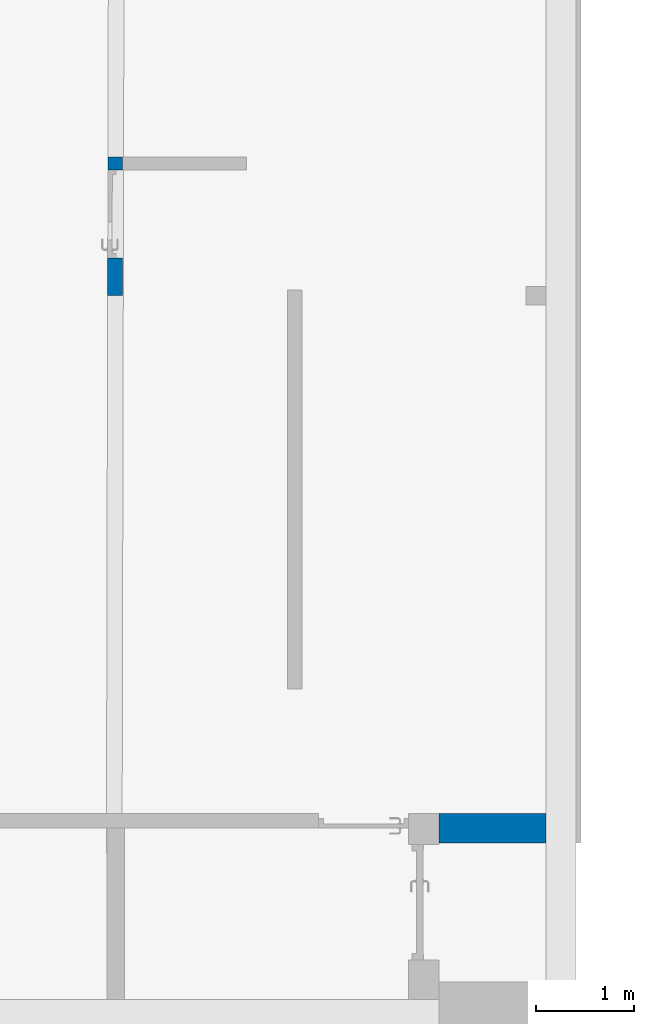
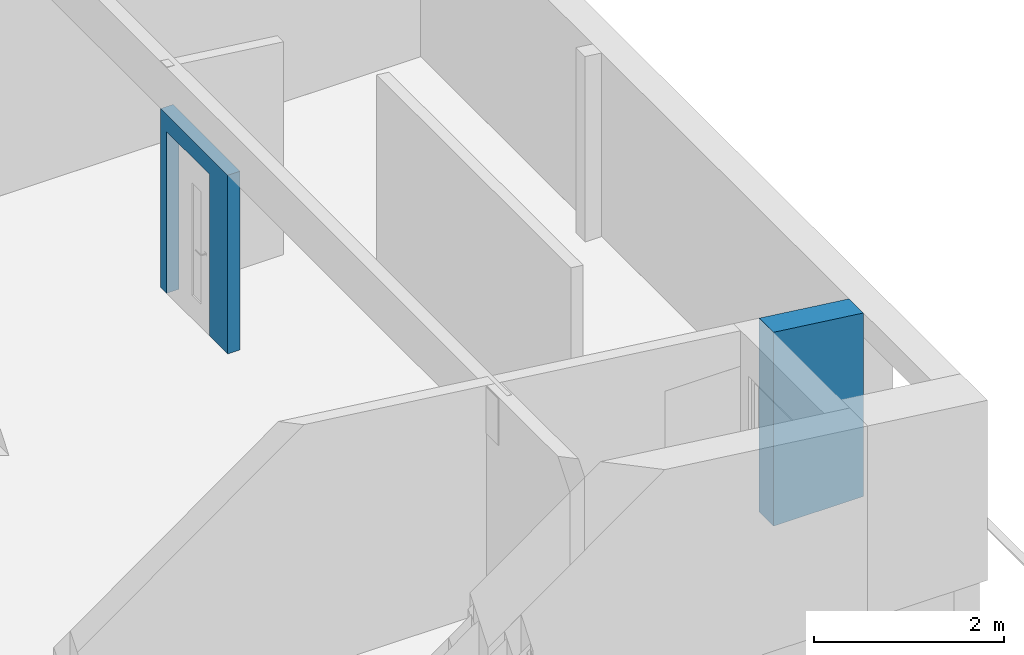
# One storey, part 162 of 301: 2 walls, 1 opening.
"""IFC2X3 building model written with IfcOpenShell, lengths in millimetres."""

import ifcopenshell
import ifcopenshell.guid

model = None  # the IFC model being written
_history = None  # IfcOwnerHistory: only IFC2X3 demands one
_inside = {}  # id of a spatial element -> (the spatial element, [elements in it])
_under = {}  # id of a project, library or spatial element -> (it, [spatial elements below it])
_declared = {}  # id of a project -> (the project, [libraries it declares])
_typed = {}  # id of a type object -> (the type object, [elements of that type])
_made_of = {}  # id of a material, layer set ... -> (it, [elements and type objects made of it])


def new_model(schema):
    """Start an empty IFC model of exactly this schema.

    Asked for "IFC4X3", IfcOpenShell would pick the latest addendum, in which some entities
    have other attributes; the version numbers below select the first issue.
    IFC2X3 requires an IfcOwnerHistory on every rooted entity: one is made here for all.
    """
    global model, _history
    if schema == "IFC4X3":
        model = ifcopenshell.file(schema_version=(4, 3, 0, 0))
    else:
        model = ifcopenshell.file(schema=schema)
    _inside.clear()
    _under.clear()
    _declared.clear()
    _typed.clear()
    _made_of.clear()
    _history = None
    if model.schema == "IFC2X3":
        org = make("IfcOrganization", Name="unknown")
        user = make(
            "IfcPersonAndOrganization",
            ThePerson=make("IfcPerson", FamilyName="unknown"),
            TheOrganization=org,
        )
        app = make(
            "IfcApplication",
            ApplicationDeveloper=org,
            Version="unknown",
            ApplicationFullName="unknown",
            ApplicationIdentifier="unknown",
        )
        _history = make(
            "IfcOwnerHistory",
            OwningUser=user,
            OwningApplication=app,
            ChangeAction="ADDED",
            CreationDate=0,
        )
    return model


def make(cls, **values):
    """One entity of the class cls with the attributes given. An attribute that is None is left unset."""
    return model.create_entity(
        cls, **{name: value for name, value in values.items() if value is not None}
    )


def entity(cls, *values):
    """Any entity or typed value of the class cls, its attributes in the order of the schema. None: left unset."""
    e = model.create_entity(cls)
    for i, value in enumerate(values):
        if value is not None:
            e[i] = value
    return e


def rooted(cls, **values):
    """An entity with a GlobalId (a new one), such as an element, a storey or a relation."""
    return make(cls, GlobalId=ifcopenshell.guid.new(), OwnerHistory=_history, **values)


def si_unit(unit_type, name, prefix=None):
    """IfcSIUnit, for example si_unit("LENGTHUNIT", "METRE", prefix="MILLI")."""
    return make("IfcSIUnit", UnitType=unit_type, Prefix=prefix, Name=name)


def converted_unit(unit_type, name, factor, base, dimensions=None, offset=None):
    """IfcConversionBasedUnit, such as the inch: factor (a typed value) times the base unit."""
    return make(
        "IfcConversionBasedUnit"
        if offset is None
        else "IfcConversionBasedUnitWithOffset",
        ConversionOffset=offset,
        Dimensions=None
        if dimensions is None
        else entity("IfcDimensionalExponents", *dimensions),
        UnitType=unit_type,
        Name=name,
        ConversionFactor=make(
            "IfcMeasureWithUnit", ValueComponent=factor, UnitComponent=base
        ),
    )


def derived_unit(unit_type, elements):
    """IfcDerivedUnit: a product of units, each with its exponent."""
    return make(
        "IfcDerivedUnit",
        Elements=[
            make("IfcDerivedUnitElement", Unit=unit, Exponent=power)
            for unit, power in elements
        ],
        UnitType=unit_type,
    )


def money_unit(currency):
    """IfcMonetaryUnit."""
    return make("IfcMonetaryUnit", Currency=currency)


def assignment(units):
    """IfcUnitAssignment: the units of a project."""
    return None if units is None else make("IfcUnitAssignment", Units=units)


def point(xyz):
    """IfcCartesianPoint."""
    return None if xyz is None else make("IfcCartesianPoint", Coordinates=xyz)


def direction(xyz):
    """IfcDirection."""
    return None if xyz is None else make("IfcDirection", DirectionRatios=xyz)


def frame(location, z_axis=None, x_axis=None):
    """IfcAxis2Placement3D, a coordinate frame: its origin and axes. An axis left out is left unset."""
    return make(
        "IfcAxis2Placement3D",
        Location=point(location),
        Axis=direction(z_axis),
        RefDirection=direction(x_axis),
    )


def origin_with_axes():
    """The frame at (0, 0, 0) with the z axis (0, 0, 1) and the x axis (1, 0, 0) written out."""
    return frame((0.0, 0.0, 0.0), z_axis=(0.0, 0.0, 1.0), x_axis=(1.0, 0.0, 0.0))


def place(relative_to, where):
    """IfcLocalPlacement: puts the frame where relative to a parent placement (None: the world)."""
    return make(
        "IfcLocalPlacement", PlacementRelTo=relative_to, RelativePlacement=where
    )


def context(
    kind, dimensions, precision=None, world=None, true_north=None, identifier=None
):
    """IfcGeometricRepresentationContext, for example the 3D "Model" context."""
    return make(
        "IfcGeometricRepresentationContext",
        ContextIdentifier=identifier,
        ContextType=kind,
        CoordinateSpaceDimension=dimensions,
        Precision=precision,
        WorldCoordinateSystem=world,
        TrueNorth=true_north,
    )


def subcontext(parent, identifier, kind, view, scale=None):
    """IfcGeometricRepresentationSubContext, for example "Body" below "Model"."""
    return make(
        "IfcGeometricRepresentationSubContext",
        ContextIdentifier=identifier,
        ContextType=kind,
        ParentContext=parent,
        TargetScale=scale,
        TargetView=view,
    )


def project(units=None, contexts=None):
    """IfcProject with its units and contexts."""
    return rooted(
        "IfcProject",
        Name="project",
        RepresentationContexts=contexts,
        UnitsInContext=assignment(units),
    )


def spatial(cls, under=None, at=None, **own):
    """A site, building, storey or space (cls), placed at a placement, below another one or the project."""
    s = rooted(cls, ObjectPlacement=at, **own)
    if under is not None:
        _under.setdefault(under.id(), (under, []))[1].append(s)
    return s


def faces_of(points, faces, orient=None, outer=None):
    """IfcFace entities. A face is a list of loops; a loop is a list of indices into points, from 0.

    orient and outer hold one flag for each loop. By default every Orientation is true, the
    first loop of a face is its IfcFaceOuterBound and the others are IfcFaceBound.
    """
    made = []
    for i, loops in enumerate(faces):
        bounds = []
        for j, loop in enumerate(loops):
            is_outer = j == 0 if outer is None else outer[i][j]
            bounds.append(
                make(
                    "IfcFaceOuterBound" if is_outer else "IfcFaceBound",
                    Bound=make("IfcPolyLoop", Polygon=[points[k] for k in loop]),
                    Orientation=True if orient is None else orient[i][j],
                )
            )
        made.append(make("IfcFace", Bounds=bounds))
    return made


def faceted_brep(points, faces, orient=None, outer=None, voids=None):
    """IfcFacetedBrep: a solid bounded by flat faces; with voids (closed shells), ...WithVoids."""
    shared = [point(p) for p in points]
    hull = make("IfcClosedShell", CfsFaces=faces_of(shared, faces, orient, outer))
    if voids is None:
        return make("IfcFacetedBrep", Outer=hull)
    return make(
        "IfcFacetedBrepWithVoids",
        Outer=hull,
        Voids=[
            make(cls, CfsFaces=faces_of(shared, fs, o, b)) for cls, fs, o, b in voids
        ],
    )


def shape(context_of_items, identifier, shape_type, items):
    """IfcShapeRepresentation: the items that make up one representation, for example the "Body"."""
    return make(
        "IfcShapeRepresentation",
        ContextOfItems=context_of_items,
        RepresentationIdentifier=identifier,
        RepresentationType=shape_type,
        Items=items,
    )


def material(Name=None, Category=None):
    """IfcMaterial."""
    return make("IfcMaterial", Name=Name, Category=Category)


def made_of(thing, what):
    """Note that an element or type object is made of a material, layer set ...; save() writes the relation."""
    if what is not None:
        _made_of.setdefault(what.id(), (what, []))[1].append(thing)
    return thing


def type_object(cls, material=None, **own):
    """A type object (cls), such as IfcWallType, which elements share."""
    return made_of(rooted(cls, **own), material)


def element(
    cls,
    number,
    at=None,
    inside=None,
    cuts=None,
    type_object=None,
    material=None,
    context=None,
    identifier="Body",
    shape_type=None,
    held_by="IfcProductDefinitionShape",
    body=None,
    shapes=None,
    **own,
):
    """One element of the class cls, such as IfcWall. Its Tag is "e" and its number.

    at: its placement. inside: the storey or other place that contains it. cuts: it is an
    opening in that element (IfcRelVoidsElement). A single representation is given by context,
    identifier, shape_type and body (its items); several are given by shapes. held_by: the class
    of the entity that holds the representations. save() writes the other relations.
    """
    e = rooted(cls, Tag="e%d" % number, ObjectPlacement=at, **own)
    if body is not None:
        shapes = [shape(context, identifier, shape_type, body)]
    if shapes is not None:
        e.Representation = make(held_by, Representations=shapes)
    if inside is not None:
        _inside.setdefault(inside.id(), (inside, []))[1].append(e)
    if cuts is not None:
        rooted(
            "IfcRelVoidsElement", RelatingBuildingElement=cuts, RelatedOpeningElement=e
        )
    if type_object is not None:
        _typed.setdefault(type_object.id(), (type_object, []))[1].append(e)
    return made_of(e, material)


def aggregate(whole, parts):
    """IfcRelAggregates: a whole, such as a stair, and the parts it consists of."""
    return rooted("IfcRelAggregates", RelatingObject=whole, RelatedObjects=parts)


def save(model, path):
    """Write the relations noted so far, then the file.

    IfcRelAggregates (storeys below a building ...), IfcRelContainedInSpatialStructure (elements
    in a storey), IfcRelDefinesByType, IfcRelAssociatesMaterial and IfcRelDeclares: one each for
    every whole, place, type object, material and project.
    """
    for whole, parts in _under.values():
        aggregate(whole, parts)
    for where, things in _inside.values():
        rooted(
            "IfcRelContainedInSpatialStructure",
            RelatedElements=things,
            RelatingStructure=where,
        )
    for kind, things in _typed.values():
        rooted("IfcRelDefinesByType", RelatedObjects=things, RelatingType=kind)
    for what, things in _made_of.values():
        rooted("IfcRelAssociatesMaterial", RelatedObjects=things, RelatingMaterial=what)
    for by, libraries in _declared.values():
        rooted("IfcRelDeclares", RelatingContext=by, RelatedDefinitions=libraries)
    model.write(path)


model = new_model("IFC2X3")

# Units and contexts
model_context = context("Model", 3, precision=0.01, world=origin_with_axes(), true_north=direction((0.0, 1.0)))
body_context = subcontext(model_context, "Body", "Model", "MODEL_VIEW")
ifc_project = project(units=[si_unit("LENGTHUNIT", "METRE", prefix="MILLI"), si_unit("AREAUNIT", "SQUARE_METRE"), si_unit("VOLUMEUNIT", "CUBIC_METRE"), converted_unit("PLANEANGLEUNIT", "DEGREE", entity("IfcPlaneAngleMeasure", 0.0174532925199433), si_unit("PLANEANGLEUNIT", "RADIAN"), dimensions=[0, 0, 0, 0, 0, 0, 0]), money_unit("EUR"), converted_unit("TIMEUNIT", "Year", entity("IfcTimeMeasure", 31557600.0), si_unit("TIMEUNIT", "SECOND"), dimensions=[0, 0, 1, 0, 0, 0, 0]), si_unit("MASSUNIT", "GRAM", prefix="KILO"), si_unit("THERMODYNAMICTEMPERATUREUNIT", "DEGREE_CELSIUS"), si_unit("LUMINOUSINTENSITYUNIT", "LUMEN"), si_unit("ENERGYUNIT", "JOULE", prefix="MEGA"), derived_unit("THERMALCONDUCTANCEUNIT", [(si_unit("POWERUNIT", "WATT"), 1), (si_unit("LENGTHUNIT", "METRE"), -1), (si_unit("THERMODYNAMICTEMPERATUREUNIT", "KELVIN"), -1)]), derived_unit("SPECIFICHEATCAPACITYUNIT", [(si_unit("ENERGYUNIT", "JOULE"), 1), (si_unit("MASSUNIT", "GRAM", prefix="KILO"), -1), (si_unit("THERMODYNAMICTEMPERATUREUNIT", "KELVIN"), -1)]), derived_unit("MASSDENSITYUNIT", [(si_unit("MASSUNIT", "GRAM", prefix="KILO"), 1), (si_unit("VOLUMEUNIT", "CUBIC_METRE"), -1)])], contexts=[model_context])

# Site, building, storey
site_placement = place(None, frame((0.0, 0.0, 8650.0), z_axis=(0.0, 0.0, 1.0), x_axis=(1.0, 0.0, 0.0)))
site = spatial("IfcSite", under=ifc_project, at=site_placement, Name="43301:001:0844", CompositionType="ELEMENT")
building_placement = place(site_placement, origin_with_axes())
building = spatial("IfcBuilding", under=site, at=building_placement, Name="Kuressaare Ametikooli tuulikute mehaanikute õppekorpus", CompositionType="ELEMENT")
storey_placement = place(building_placement, origin_with_axes())
storey = spatial("IfcBuildingStorey", under=building, at=storey_placement, Name="1.korrus", CompositionType="ELEMENT", Elevation=0.0)

# Wall
ifc_material = material(Name="GENEERILINE - KONSTRUKTRIOON")
wall_type_1 = type_object("IfcWallType", Name="GENEERILINE - KONSTRUKTRIOON 300", PredefinedType="NOTDEFINED")
wall_1_placement = place(storey_placement, frame((135770.4547532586, 33908.58436508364, 0.0), z_axis=(0.0, 0.0, 1.0), x_axis=(-1.0, 0.0, 0.0)))
element("IfcWall", 1, at=wall_1_placement, inside=storey, type_object=wall_type_1, material=ifc_material, Name="VS-XX", context=body_context, shape_type="Brep", body=[
    faceted_brep([(1091.098581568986, -299.9999999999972, 2485.527509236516), (1091.098581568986, -299.9999999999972, 0.0), (1091.098581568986, 0.0, 0.0), (1091.098581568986, 0.0, 2485.527508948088), (0.0, -299.9999999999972, 2351.557448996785), (0.0, -299.9999999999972, 0.0), (0.0, 0.0, 0.0), (0.0, 0.0, 2351.557448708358)], [[[0, 1, 2, 3]], [[1, 0, 4, 5]], [[2, 1, 5, 6]], [[3, 2, 6, 7]], [[0, 3, 7, 4]], [[5, 4, 7, 6]]]),
])

# Wall, opening
wall_type_2 = type_object("IfcWallType", Name="GENEERILINE - KONSTRUKTRIOON 150", PredefinedType="NOTDEFINED")
wall_2_placement = place(storey_placement, frame((131295.7898673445, 40916.66633307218, 0.0), z_axis=(0.0, 0.0, 1.0), x_axis=(-0.002158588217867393, -0.9999976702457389, 0.0)))
wall_2 = element("IfcWall", 2, at=wall_2_placement, inside=storey, type_object=wall_type_2, material=ifc_material, context=body_context, shape_type="Brep", body=[
    faceted_brep([(1030.000705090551, 150.0000000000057, 0.0), (1030.000705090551, 150.0000000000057, 2070.0), (130.000705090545, 150.0000000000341, 2070.0), (130.000705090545, 150.0000000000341, 0.0), (-0.332241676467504, 150.0000000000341, 0.0), (-0.332241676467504, 150.0000000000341, 2289.613193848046), (1411.708451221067, 150.0000000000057, 2289.613193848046), (1411.708451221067, 150.0000000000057, 0.0), (1030.000705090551, 0.0, 0.0), (1030.000705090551, 0.0, 2070.0), (130.000705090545, 0.0, 2070.0), (130.000705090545, 0.0, 0.0), (0.0, 0.0, 0.0), (0.0, 0.0, 2289.613193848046), (1411.708451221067, 0.0, 2289.613193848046), (1411.708451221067, 0.0, 0.0)], [[[0, 1, 2, 3, 4, 5, 6, 7]], [[1, 0, 8, 9]], [[2, 1, 9, 10]], [[3, 2, 10, 11]], [[3, 11, 12, 4]], [[13, 5, 4, 12]], [[6, 5, 13, 14]], [[6, 14, 15, 7]], [[8, 0, 7, 15]], [[9, 8, 15, 14, 13, 12, 11, 10]]]),
])
opening_placement = place(wall_2_placement, frame((580.0007050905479, 0.0, 0.0), z_axis=(0.0, 0.0, 1.0), x_axis=(1.0, 0.0, 0.0)))
element("IfcOpeningElement", 3, at=opening_placement, cuts=wall_2, context=body_context, shape_type="Brep", body=[
    faceted_brep([(449.9999999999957, 154.0472901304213, 2070.0), (449.9999999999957, 154.0472901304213, 0.0), (-450.0000000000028, 154.0472901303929, 0.0), (-450.0000000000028, 154.0472901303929, 2070.0), (450.0000000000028, -4.047290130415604, 2070.0), (450.0000000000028, -4.047290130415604, 0.0), (-449.9999999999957, -4.047290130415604, 0.0), (-449.9999999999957, -4.047290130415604, 2070.0)], [[[0, 1, 2, 3]], [[4, 5, 1, 0]], [[5, 6, 2, 1]], [[6, 7, 3, 2]], [[7, 4, 0, 3]], [[6, 5, 4, 7]]]),
])

save(model, "model.ifc")
